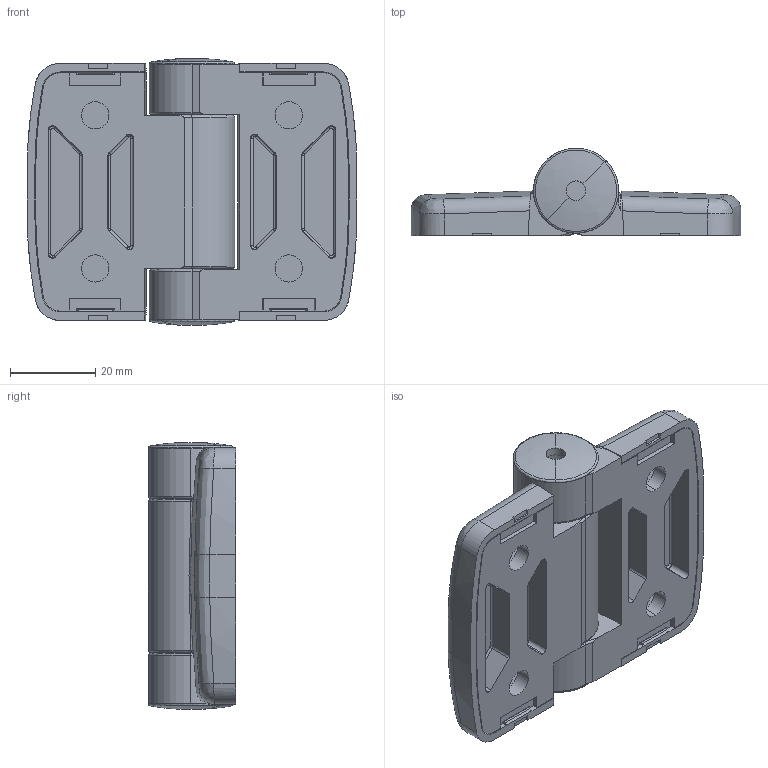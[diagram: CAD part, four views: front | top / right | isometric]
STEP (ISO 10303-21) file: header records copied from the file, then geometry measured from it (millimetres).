
FILE_DESCRIPTION(('STEP AP214'),'1');
FILE_NAME('fath_095sf4040a00.stp','2018-06-26T08:06:03',('TraceParts'),('TraceParts S.A.'),'Spatial InterOp 3D',' ',' ');
FILE_SCHEMA(('automotive_design'));
Length unit declared in the file: millimetre
Products named in the file (9): fath_095sf4040a00_1; fath_095sf4040a00_2; fath_095sf4040a00_3; fath_095sf4040a00_4; fath_095sf4040a00_5; fath_095sf4040a00_6; fath_095sf4040a00_7; fath_095sf4040a00_8; fath_095sf4040a00_9
Bounding box: 77.5 x 20.5 x 62.76 mm (x, y, z)
Volume: 42738.7 mm3; surface area: 36246.2 mm2
Topology: 9 solids, 9 shells, 688 faces, 1719 edges, 1056 vertices
Faces by surface type: plane 234, cylinder 204, bspline 177, cone 73
Entity records: 29802 total; most frequent: CARTESIAN_POINT 8636, ORIENTED_EDGE 3414, DIRECTION 3055, EDGE_CURVE 1707, AXIS2_PLACEMENT_3D 1107, VERTEX_POINT 1056, LINE 841, VECTOR 841
